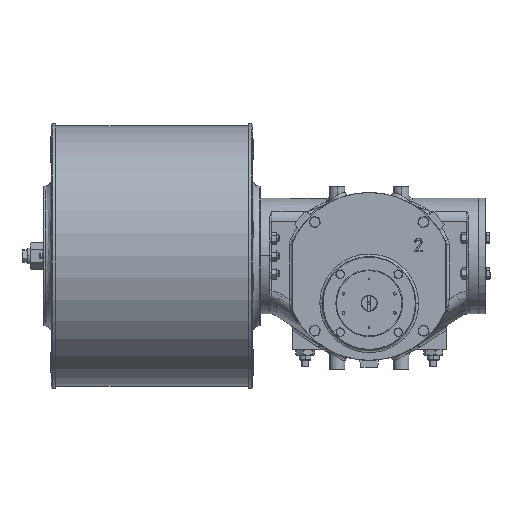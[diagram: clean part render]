
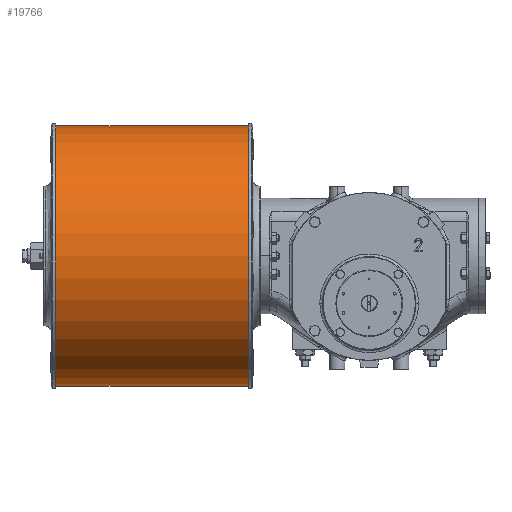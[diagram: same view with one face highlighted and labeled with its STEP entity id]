
A CAD part, top view. The second image highlights one B-rep face of the part: STEP entity #19766.
In plain terms, the highlighted cylindrical face has radius 203.2 mm (diameter 406.4 mm), a partial arc.
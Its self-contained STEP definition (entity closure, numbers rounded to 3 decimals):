
#1490 = CARTESIAN_POINT ( 'NONE',  ( -187.523, 35.296, 2. ) ) ;
#1593 = EDGE_CURVE ( 'NONE', #52190, #28970, #27382, .T. ) ;
#9315 = VECTOR ( 'NONE', #56390, 1000. ) ;
#14623 = EDGE_CURVE ( 'NONE', #42864, #52190, #51640, .T. ) ;
#14815 = CARTESIAN_POINT ( 'NONE',  ( -187.523, -167.904, 2. ) ) ;
#15558 = EDGE_LOOP ( 'NONE', ( #42590, #20218, #32675, #38009 ) ) ;
#15559 = FACE_OUTER_BOUND ( 'NONE', #15558, .T. ) ;
#15741 = CIRCLE ( 'NONE', #46287, 203.2 ) ;
#17615 = CARTESIAN_POINT ( 'NONE',  ( -487.523, 238.496, 2. ) ) ;
#17864 = VERTEX_POINT ( 'NONE', #28006 ) ;
#19456 = VECTOR ( 'NONE', #46211, 1000. ) ;
#19766 = ADVANCED_FACE ( 'NONE', ( #15559 ), #56547, .T. ) ;
#19907 = CARTESIAN_POINT ( 'NONE',  ( -487.523, 35.296, 2. ) ) ;
#20218 = ORIENTED_EDGE ( 'NONE', *, *, #1593, .T. ) ;
#23406 = DIRECTION ( 'NONE',  ( -1., 0., 0. ) ) ;
#25125 = DIRECTION ( 'NONE',  ( 0., -1., 0. ) ) ;
#27382 = LINE ( 'NONE', #45051, #19456 ) ;
#28006 = CARTESIAN_POINT ( 'NONE',  ( -487.523, -167.904, 2. ) ) ;
#28970 = VERTEX_POINT ( 'NONE', #17615 ) ;
#32654 = CARTESIAN_POINT ( 'NONE',  ( -187.523, 35.296, 2. ) ) ;
#32675 = ORIENTED_EDGE ( 'NONE', *, *, #46336, .T. ) ;
#36345 = AXIS2_PLACEMENT_3D ( 'NONE', #32654, #23406, #59040 ) ;
#38009 = ORIENTED_EDGE ( 'NONE', *, *, #54791, .F. ) ;
#38119 = DIRECTION ( 'NONE',  ( 1., 0., 0. ) ) ;
#42311 = LINE ( 'NONE', #14815, #9315 ) ;
#42590 = ORIENTED_EDGE ( 'NONE', *, *, #14623, .T. ) ;
#42864 = VERTEX_POINT ( 'NONE', #58278 ) ;
#45051 = CARTESIAN_POINT ( 'NONE',  ( -187.523, 238.496, 2. ) ) ;
#46211 = DIRECTION ( 'NONE',  ( -1., 0., 0. ) ) ;
#46287 = AXIS2_PLACEMENT_3D ( 'NONE', #19907, #38119, #56383 ) ;
#46336 = EDGE_CURVE ( 'NONE', #28970, #17864, #15741, .T. ) ;
#49840 = CARTESIAN_POINT ( 'NONE',  ( -187.523, 238.496, 2. ) ) ;
#51640 = CIRCLE ( 'NONE', #36345, 203.2 ) ;
#52190 = VERTEX_POINT ( 'NONE', #49840 ) ;
#53027 = AXIS2_PLACEMENT_3D ( 'NONE', #1490, #56246, #25125 ) ;
#54791 = EDGE_CURVE ( 'NONE', #42864, #17864, #42311, .T. ) ;
#56246 = DIRECTION ( 'NONE',  ( -1., 0., 0. ) ) ;
#56383 = DIRECTION ( 'NONE',  ( 0., -1., 0. ) ) ;
#56390 = DIRECTION ( 'NONE',  ( -1., 0., 0. ) ) ;
#56547 = CYLINDRICAL_SURFACE ( 'NONE', #53027, 203.2 ) ;
#58278 = CARTESIAN_POINT ( 'NONE',  ( -187.523, -167.904, 2. ) ) ;
#59040 = DIRECTION ( 'NONE',  ( 0., -1., 0. ) ) ;
